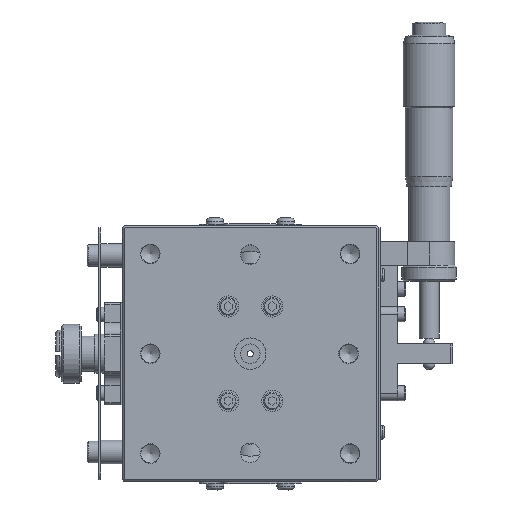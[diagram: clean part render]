
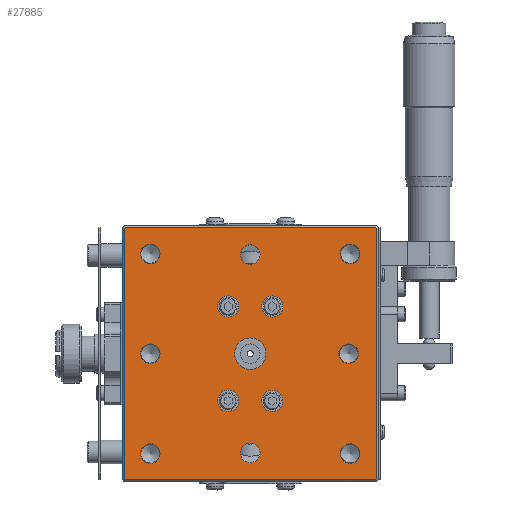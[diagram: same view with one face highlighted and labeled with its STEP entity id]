
A CAD part, top view. The second image highlights one B-rep face of the part: STEP entity #27885.
In plain terms, the highlighted planar face has unit normal (0, 0, 1).
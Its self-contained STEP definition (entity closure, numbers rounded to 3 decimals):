
#27304=CARTESIAN_POINT('',(-32.0,31.793,-75.0));
#27305=VERTEX_POINT('',#27304);
#27306=CARTESIAN_POINT('',(-31.793,32.,-75.0));
#27307=VERTEX_POINT('',#27306);
#27308=CARTESIAN_POINT('',(-32.0,31.793,-75.0));
#27309=DIRECTION('',(0.707,0.707,0.0));
#27310=VECTOR('',#27309,0.293);
#27311=LINE('',#27308,#27310);
#27312=EDGE_CURVE('',#27305,#27307,#27311,.T.);
#27344=CARTESIAN_POINT('',(-32.0,-31.793,-75.0));
#27345=VERTEX_POINT('',#27344);
#27346=CARTESIAN_POINT('',(-32.0,-31.793,-75.0));
#27347=DIRECTION('',(0.0,1.0,0.0));
#27348=VECTOR('',#27347,63.586);
#27349=LINE('',#27346,#27348);
#27350=EDGE_CURVE('',#27345,#27305,#27349,.T.);
#27394=CARTESIAN_POINT('',(31.793,32.,-75.0));
#27395=VERTEX_POINT('',#27394);
#27396=CARTESIAN_POINT('',(-31.793,32.,-75.0));
#27397=DIRECTION('',(1.0,0.0,0.0));
#27398=VECTOR('',#27397,63.586);
#27399=LINE('',#27396,#27398);
#27400=EDGE_CURVE('',#27307,#27395,#27399,.T.);
#27416=CARTESIAN_POINT('',(31.793,-32.,-75.0));
#27417=VERTEX_POINT('',#27416);
#27418=CARTESIAN_POINT('',(-31.793,-32.0,-75.0));
#27419=VERTEX_POINT('',#27418);
#27420=CARTESIAN_POINT('',(31.793,-32.,-75.0));
#27421=DIRECTION('',(-1.0,0.0,0.0));
#27422=VECTOR('',#27421,63.586);
#27423=LINE('',#27420,#27422);
#27424=EDGE_CURVE('',#27417,#27419,#27423,.T.);
#27454=CARTESIAN_POINT('',(32.,31.793,-75.0));
#27455=VERTEX_POINT('',#27454);
#27456=CARTESIAN_POINT('',(32.,-31.793,-75.0));
#27457=VERTEX_POINT('',#27456);
#27458=CARTESIAN_POINT('',(32.,31.793,-75.0));
#27459=DIRECTION('',(0.0,-1.0,0.0));
#27460=VECTOR('',#27459,63.586);
#27461=LINE('',#27458,#27460);
#27462=EDGE_CURVE('',#27455,#27457,#27461,.T.);
#27487=CARTESIAN_POINT('',(32.,-31.793,-75.0));
#27488=DIRECTION('',(-0.707,-0.707,0.0));
#27489=VECTOR('',#27488,0.293);
#27490=LINE('',#27487,#27489);
#27491=EDGE_CURVE('',#27457,#27417,#27490,.T.);
#27509=CARTESIAN_POINT('',(31.793,32.,-75.0));
#27510=DIRECTION('',(0.707,-0.707,0.0));
#27511=VECTOR('',#27510,0.293);
#27512=LINE('',#27509,#27511);
#27513=EDGE_CURVE('',#27395,#27455,#27512,.T.);
#27526=CARTESIAN_POINT('',(-31.793,-32.0,-75.0));
#27527=DIRECTION('',(-0.707,0.707,0.0));
#27528=VECTOR('',#27527,0.293);
#27529=LINE('',#27526,#27528);
#27530=EDGE_CURVE('',#27419,#27345,#27529,.T.);
#27727=CARTESIAN_POINT('',(32.5,-32.5,-75.0));
#27728=DIRECTION('',(0.0,0.0,-1.0));
#27729=DIRECTION('',(-1.0,0.0,0.0));
#27730=AXIS2_PLACEMENT_3D('',#27727,#27728,#27729);
#27731=PLANE('',#27730);
#27732=ORIENTED_EDGE('',*,*,#27462,.F.);
#27733=ORIENTED_EDGE('',*,*,#27513,.F.);
#27734=ORIENTED_EDGE('',*,*,#27400,.F.);
#27735=ORIENTED_EDGE('',*,*,#27312,.F.);
#27736=ORIENTED_EDGE('',*,*,#27350,.F.);
#27737=ORIENTED_EDGE('',*,*,#27530,.F.);
#27738=ORIENTED_EDGE('',*,*,#27424,.F.);
#27739=ORIENTED_EDGE('',*,*,#27491,.F.);
#27740=EDGE_LOOP('',(#27732,#27733,#27734,#27735,#27736,#27737,#27738,#27739));
#27741=FACE_OUTER_BOUND('',#27740,.T.);
#27742=CARTESIAN_POINT('',(-2.9,-12.,-75.0));
#27743=VERTEX_POINT('',#27742);
#27744=CARTESIAN_POINT('',(-5.6,-12.,-75.0));
#27745=DIRECTION('',(0.0,0.0,-1.0));
#27746=DIRECTION('',(1.0,0.0,0.0));
#27747=AXIS2_PLACEMENT_3D('',#27744,#27745,#27746);
#27748=CIRCLE('',#27747,2.7);
#27749=EDGE_CURVE('',#27743,#27743,#27748,.T.);
#27750=ORIENTED_EDGE('',*,*,#27749,.T.);
#27751=EDGE_LOOP('',(#27750));
#27752=FACE_BOUND('',#27751,.T.);
#27753=CARTESIAN_POINT('',(8.3,-12.,-75.0));
#27754=VERTEX_POINT('',#27753);
#27755=CARTESIAN_POINT('',(5.6,-12.,-75.0));
#27756=DIRECTION('',(0.0,0.0,-1.0));
#27757=DIRECTION('',(1.0,0.0,0.0));
#27758=AXIS2_PLACEMENT_3D('',#27755,#27756,#27757);
#27759=CIRCLE('',#27758,2.7);
#27760=EDGE_CURVE('',#27754,#27754,#27759,.T.);
#27761=ORIENTED_EDGE('',*,*,#27760,.T.);
#27762=EDGE_LOOP('',(#27761));
#27763=FACE_BOUND('',#27762,.T.);
#27764=CARTESIAN_POINT('',(-2.9,12.,-75.0));
#27765=VERTEX_POINT('',#27764);
#27766=CARTESIAN_POINT('',(-5.6,12.,-75.0));
#27767=DIRECTION('',(0.0,0.0,-1.0));
#27768=DIRECTION('',(1.0,0.0,0.0));
#27769=AXIS2_PLACEMENT_3D('',#27766,#27767,#27768);
#27770=CIRCLE('',#27769,2.7);
#27771=EDGE_CURVE('',#27765,#27765,#27770,.T.);
#27772=ORIENTED_EDGE('',*,*,#27771,.T.);
#27773=EDGE_LOOP('',(#27772));
#27774=FACE_BOUND('',#27773,.T.);
#27775=CARTESIAN_POINT('',(8.3,12.,-75.0));
#27776=VERTEX_POINT('',#27775);
#27777=CARTESIAN_POINT('',(5.6,12.,-75.0));
#27778=DIRECTION('',(0.0,0.0,-1.0));
#27779=DIRECTION('',(1.0,0.0,0.0));
#27780=AXIS2_PLACEMENT_3D('',#27777,#27778,#27779);
#27781=CIRCLE('',#27780,2.7);
#27782=EDGE_CURVE('',#27776,#27776,#27781,.T.);
#27783=ORIENTED_EDGE('',*,*,#27782,.T.);
#27784=EDGE_LOOP('',(#27783));
#27785=FACE_BOUND('',#27784,.T.);
#27786=CARTESIAN_POINT('',(-22.911,-25.4,-75.0));
#27787=VERTEX_POINT('',#27786);
#27788=CARTESIAN_POINT('',(-25.4,-25.4,-75.0));
#27789=DIRECTION('',(0.0,0.0,-1.0));
#27790=DIRECTION('',(1.0,0.0,0.0));
#27791=AXIS2_PLACEMENT_3D('',#27788,#27789,#27790);
#27792=CIRCLE('',#27791,2.489);
#27793=EDGE_CURVE('',#27787,#27787,#27792,.T.);
#27794=ORIENTED_EDGE('',*,*,#27793,.T.);
#27795=EDGE_LOOP('',(#27794));
#27796=FACE_BOUND('',#27795,.T.);
#27797=CARTESIAN_POINT('',(27.889,-25.4,-75.0));
#27798=VERTEX_POINT('',#27797);
#27799=CARTESIAN_POINT('',(25.4,-25.4,-75.0));
#27800=DIRECTION('',(0.0,0.0,-1.0));
#27801=DIRECTION('',(1.0,0.0,0.0));
#27802=AXIS2_PLACEMENT_3D('',#27799,#27800,#27801);
#27803=CIRCLE('',#27802,2.489);
#27804=EDGE_CURVE('',#27798,#27798,#27803,.T.);
#27805=ORIENTED_EDGE('',*,*,#27804,.T.);
#27806=EDGE_LOOP('',(#27805));
#27807=FACE_BOUND('',#27806,.T.);
#27808=CARTESIAN_POINT('',(-22.911,25.4,-75.0));
#27809=VERTEX_POINT('',#27808);
#27810=CARTESIAN_POINT('',(-25.4,25.4,-75.0));
#27811=DIRECTION('',(0.0,0.0,-1.0));
#27812=DIRECTION('',(1.0,0.0,0.0));
#27813=AXIS2_PLACEMENT_3D('',#27810,#27811,#27812);
#27814=CIRCLE('',#27813,2.489);
#27815=EDGE_CURVE('',#27809,#27809,#27814,.T.);
#27816=ORIENTED_EDGE('',*,*,#27815,.T.);
#27817=EDGE_LOOP('',(#27816));
#27818=FACE_BOUND('',#27817,.T.);
#27819=CARTESIAN_POINT('',(27.889,25.4,-75.0));
#27820=VERTEX_POINT('',#27819);
#27821=CARTESIAN_POINT('',(25.4,25.4,-75.0));
#27822=DIRECTION('',(0.0,0.0,-1.0));
#27823=DIRECTION('',(1.0,0.0,0.0));
#27824=AXIS2_PLACEMENT_3D('',#27821,#27822,#27823);
#27825=CIRCLE('',#27824,2.489);
#27826=EDGE_CURVE('',#27820,#27820,#27825,.T.);
#27827=ORIENTED_EDGE('',*,*,#27826,.T.);
#27828=EDGE_LOOP('',(#27827));
#27829=FACE_BOUND('',#27828,.T.);
#27830=CARTESIAN_POINT('',(-22.911,0.,-75.0));
#27831=VERTEX_POINT('',#27830);
#27832=CARTESIAN_POINT('',(-25.4,0.,-75.0));
#27833=DIRECTION('',(0.0,0.0,-1.0));
#27834=DIRECTION('',(1.0,0.0,0.0));
#27835=AXIS2_PLACEMENT_3D('',#27832,#27833,#27834);
#27836=CIRCLE('',#27835,2.489);
#27837=EDGE_CURVE('',#27831,#27831,#27836,.T.);
#27838=ORIENTED_EDGE('',*,*,#27837,.T.);
#27839=EDGE_LOOP('',(#27838));
#27840=FACE_BOUND('',#27839,.T.);
#27841=CARTESIAN_POINT('',(27.489,0.,-75.0));
#27842=VERTEX_POINT('',#27841);
#27843=CARTESIAN_POINT('',(25.,0.,-75.0));
#27844=DIRECTION('',(0.0,0.0,-1.0));
#27845=DIRECTION('',(1.0,0.0,0.0));
#27846=AXIS2_PLACEMENT_3D('',#27843,#27844,#27845);
#27847=CIRCLE('',#27846,2.489);
#27848=EDGE_CURVE('',#27842,#27842,#27847,.T.);
#27849=ORIENTED_EDGE('',*,*,#27848,.T.);
#27850=EDGE_LOOP('',(#27849));
#27851=FACE_BOUND('',#27850,.T.);
#27852=CARTESIAN_POINT('',(2.489,-25.2,-75.0));
#27853=VERTEX_POINT('',#27852);
#27854=CARTESIAN_POINT('',(0.0,-25.2,-75.0));
#27855=DIRECTION('',(0.0,0.0,-1.0));
#27856=DIRECTION('',(1.0,0.0,0.0));
#27857=AXIS2_PLACEMENT_3D('',#27854,#27855,#27856);
#27858=CIRCLE('',#27857,2.489);
#27859=EDGE_CURVE('',#27853,#27853,#27858,.T.);
#27860=ORIENTED_EDGE('',*,*,#27859,.T.);
#27861=EDGE_LOOP('',(#27860));
#27862=FACE_BOUND('',#27861,.T.);
#27863=CARTESIAN_POINT('',(2.489,25.2,-75.0));
#27864=VERTEX_POINT('',#27863);
#27865=CARTESIAN_POINT('',(0.0,25.2,-75.0));
#27866=DIRECTION('',(0.0,0.0,-1.0));
#27867=DIRECTION('',(1.0,0.0,0.0));
#27868=AXIS2_PLACEMENT_3D('',#27865,#27866,#27867);
#27869=CIRCLE('',#27868,2.489);
#27870=EDGE_CURVE('',#27864,#27864,#27869,.T.);
#27871=ORIENTED_EDGE('',*,*,#27870,.T.);
#27872=EDGE_LOOP('',(#27871));
#27873=FACE_BOUND('',#27872,.T.);
#27874=CARTESIAN_POINT('',(4.0,0.,-75.0));
#27875=VERTEX_POINT('',#27874);
#27876=CARTESIAN_POINT('',(0.0,0.,-75.0));
#27877=DIRECTION('',(0.0,0.0,-1.0));
#27878=DIRECTION('',(-1.0,0.0,0.0));
#27879=AXIS2_PLACEMENT_3D('',#27876,#27877,#27878);
#27880=CIRCLE('',#27879,4.0);
#27881=EDGE_CURVE('',#27875,#27875,#27880,.T.);
#27882=ORIENTED_EDGE('',*,*,#27881,.T.);
#27883=EDGE_LOOP('',(#27882));
#27884=FACE_BOUND('',#27883,.T.);
#27885=ADVANCED_FACE('',(#27741,#27752,#27763,#27774,#27785,#27796,#27807,#27818,#27829,#27840,#27851,#27862,#27873,#27884),#27731,.F.);
